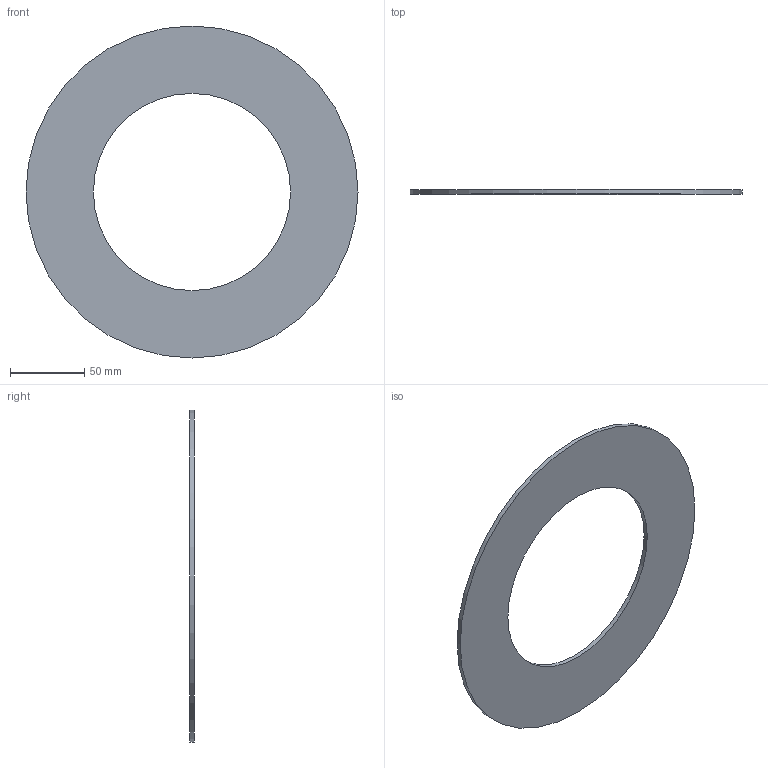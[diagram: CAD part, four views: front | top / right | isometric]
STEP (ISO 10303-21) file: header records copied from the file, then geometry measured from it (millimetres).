
FILE_DESCRIPTION(/* description */ ('Unknown'),/* implementation_level */ '2;1');
FILE_NAME(/* name */ 'GUA.180H',/* time_stamp */ '2021-04-01T15:04:55+02:00',/* author */ ('Unknown'),/* organization */ ('Unknown'),/* preprocessor_version */ 'ST-DEVELOPER v16.7',/* originating_system */ 'Solid Edge',/* authorisation */ 'Unknown');
FILE_SCHEMA (('AUTOMOTIVE_DESIGN {1 0 10303 214 3 1 1}'));
Length unit declared in the file: millimetre
Products named in the file (1): GUA.180H
Bounding box: 224 x 3 x 224 mm (x, y, z)
Volume: 76545.7 mm3; surface area: 54395.1 mm2
Topology: 1 solids, 1 shells, 4 faces, 6 edges, 4 vertices
Faces by surface type: cylinder 2, plane 2
Full cylindrical faces by diameter (mm): 133 x1, 224 x1
Entity records: 118 total; most frequent: DIRECTION 18, CARTESIAN_POINT 13, AXIS2_PLACEMENT_3D 9, ORIENTED_EDGE 8, EDGE_LOOP 8, FACE_BOUND 8, EDGE_CURVE 4, VERTEX_POINT 4
